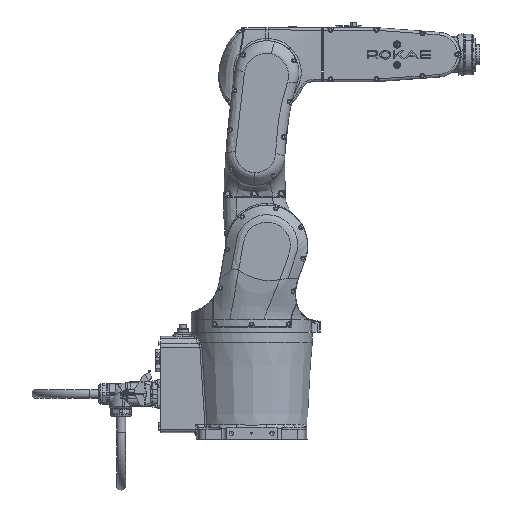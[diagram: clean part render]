
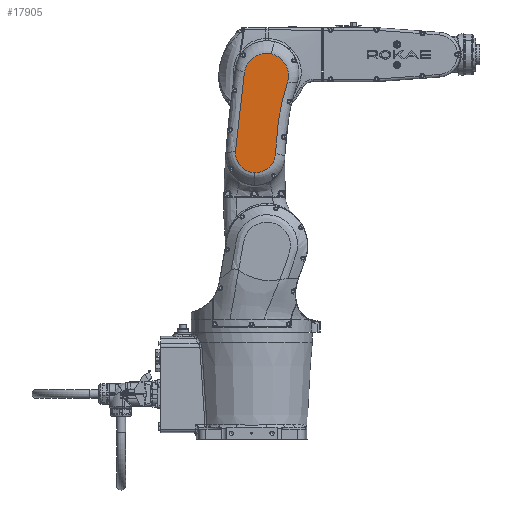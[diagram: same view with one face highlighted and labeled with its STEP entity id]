
A CAD part, front view. The second image highlights one B-rep face of the part: STEP entity #17905.
In plain terms, the highlighted planar face has unit normal (0, -1, 0).
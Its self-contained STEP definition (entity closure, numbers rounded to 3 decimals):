
#10358=B_SPLINE_CURVE_WITH_KNOTS('',3,(#132347,#132348,#132349,#132350,
#132351,#132352,#132353,#132354,#132355,#132356),.UNSPECIFIED.,.F.,.F.,
(4,2,2,2,4),(0.,0.25,0.5,0.75,1.),.UNSPECIFIED.);
#10373=B_SPLINE_CURVE_WITH_KNOTS('',3,(#136193,#136194,#136195,#136196),
 .UNSPECIFIED.,.F.,.F.,(4,4),(0.,1.),.UNSPECIFIED.);
#10382=B_SPLINE_CURVE_WITH_KNOTS('',3,(#136343,#136344,#136345,#136346,
#136347,#136348,#136349,#136350,#136351,#136352),.UNSPECIFIED.,.F.,.F.,
(4,2,2,2,4),(0.,0.25,0.5,0.75,1.),.UNSPECIFIED.);
#10397=B_SPLINE_CURVE_WITH_KNOTS('',3,(#136908,#136909,#136910,#136911),
 .UNSPECIFIED.,.F.,.F.,(4,4),(0.,1.),.UNSPECIFIED.);
#10405=B_SPLINE_CURVE_WITH_KNOTS('',3,(#137076,#137077,#137078,#137079,
#137080,#137081,#137082,#137083,#137084,#137085),.UNSPECIFIED.,.F.,.F.,
(4,2,2,2,4),(0.,0.25,0.5,0.75,1.),.UNSPECIFIED.);
#10410=B_SPLINE_CURVE_WITH_KNOTS('',3,(#137565,#137566,#137567,#137568,
#137569,#137570,#137571,#137572,#137573,#137574),.UNSPECIFIED.,.F.,.F.,
(4,2,2,2,4),(0.,0.25,0.5,0.75,1.),.UNSPECIFIED.);
#12145=PLANE('',#62605);
#14443=FACE_OUTER_BOUND('',#23861,.T.);
#17905=ADVANCED_FACE('',(#14443),#12145,.T.);
#23861=EDGE_LOOP('',(#35130,#35131,#35132,#35133,#35134,#35135));
#35130=ORIENTED_EDGE('',*,*,#53076,.T.);
#35131=ORIENTED_EDGE('',*,*,#53061,.T.);
#35132=ORIENTED_EDGE('',*,*,#53117,.T.);
#35133=ORIENTED_EDGE('',*,*,#53106,.T.);
#35134=ORIENTED_EDGE('',*,*,#53124,.T.);
#35135=ORIENTED_EDGE('',*,*,#53087,.T.);
#46019=VERTEX_POINT('',#132346);
#46020=VERTEX_POINT('',#132357);
#46034=VERTEX_POINT('',#136197);
#46043=VERTEX_POINT('',#136332);
#46062=VERTEX_POINT('',#136912);
#46063=VERTEX_POINT('',#136913);
#53061=EDGE_CURVE('',#46020,#46019,#10358,.T.);
#53076=EDGE_CURVE('',#46034,#46020,#10373,.T.);
#53087=EDGE_CURVE('',#46043,#46034,#10382,.T.);
#53106=EDGE_CURVE('',#46062,#46063,#10397,.T.);
#53117=EDGE_CURVE('',#46019,#46062,#10405,.T.);
#53124=EDGE_CURVE('',#46063,#46043,#10410,.T.);
#62605=AXIS2_PLACEMENT_3D('',#138012,#72441,#72442);
#72441=DIRECTION('',(0.,-1.,0.));
#72442=DIRECTION('',(0.,0.,-1.));
#132346=CARTESIAN_POINT('',(-24.611,-115.,143.411));
#132347=CARTESIAN_POINT('',(-61.751,-115.,185.411));
#132348=CARTESIAN_POINT('',(-62.124,-115.,180.215));
#132349=CARTESIAN_POINT('',(-61.452,-115.,174.959));
#132350=CARTESIAN_POINT('',(-58.115,-115.,165.093));
#132351=CARTESIAN_POINT('',(-55.458,-115.,160.506));
#132352=CARTESIAN_POINT('',(-48.559,-115.,152.705));
#132353=CARTESIAN_POINT('',(-44.332,-115.,149.506));
#132354=CARTESIAN_POINT('',(-34.948,-115.,144.987));
#132355=CARTESIAN_POINT('',(-29.812,-115.,143.676));
#132356=CARTESIAN_POINT('',(-24.611,-115.,143.411));
#132357=CARTESIAN_POINT('',(-61.751,-115.,185.411));
#136193=CARTESIAN_POINT('',(-44.433,-115.,340.528));
#136194=CARTESIAN_POINT('',(-52.244,-115.,289.05));
#136195=CARTESIAN_POINT('',(-58.016,-115.,237.344));
#136196=CARTESIAN_POINT('',(-61.751,-115.,185.411));
#136197=CARTESIAN_POINT('',(-44.433,-115.,340.528));
#136332=CARTESIAN_POINT('',(8.392,-115.,376.398));
#136343=CARTESIAN_POINT('',(8.392,-115.,376.398));
#136344=CARTESIAN_POINT('',(2.566,-115.,377.745));
#136345=CARTESIAN_POINT('',(-3.523,-115.,377.874));
#136346=CARTESIAN_POINT('',(-15.276,-115.,375.679));
#136347=CARTESIAN_POINT('',(-20.91,-115.,373.359));
#136348=CARTESIAN_POINT('',(-30.801,-115.,366.643));
#136349=CARTESIAN_POINT('',(-35.035,-115.,362.262));
#136350=CARTESIAN_POINT('',(-41.41,-115.,352.148));
#136351=CARTESIAN_POINT('',(-43.536,-115.,346.439));
#136352=CARTESIAN_POINT('',(-44.433,-115.,340.528));
#136908=CARTESIAN_POINT('',(16.603,-115.,181.42));
#136909=CARTESIAN_POINT('',(18.023,-115.,228.742));
#136910=CARTESIAN_POINT('',(25.952,-115.,275.808));
#136911=CARTESIAN_POINT('',(40.114,-115.,320.982));
#136912=CARTESIAN_POINT('',(16.603,-115.,181.42));
#136913=CARTESIAN_POINT('',(40.114,-115.,320.982));
#137076=CARTESIAN_POINT('',(-24.611,-115.,143.411));
#137077=CARTESIAN_POINT('',(-19.409,-115.,143.146));
#137078=CARTESIAN_POINT('',(-14.168,-115.,143.928));
#137079=CARTESIAN_POINT('',(-4.374,-115.,147.471));
#137080=CARTESIAN_POINT('',(0.157,-115.,150.223));
#137081=CARTESIAN_POINT('',(7.812,-115.,157.284));
#137082=CARTESIAN_POINT('',(10.922,-115.,161.577));
#137083=CARTESIAN_POINT('',(15.244,-115.,171.053));
#137084=CARTESIAN_POINT('',(16.447,-115.,176.215));
#137085=CARTESIAN_POINT('',(16.603,-115.,181.42));
#137565=CARTESIAN_POINT('',(40.114,-115.,320.982));
#137566=CARTESIAN_POINT('',(41.903,-115.,326.688));
#137567=CARTESIAN_POINT('',(42.498,-115.,332.75));
#137568=CARTESIAN_POINT('',(41.208,-115.,344.636));
#137569=CARTESIAN_POINT('',(39.327,-115.,350.431));
#137570=CARTESIAN_POINT('',(33.387,-115.,360.807));
#137571=CARTESIAN_POINT('',(29.343,-115.,365.364));
#137572=CARTESIAN_POINT('',(19.747,-115.,372.495));
#137573=CARTESIAN_POINT('',(14.217,-115.,375.052));
#137574=CARTESIAN_POINT('',(8.392,-115.,376.398));
#138012=CARTESIAN_POINT('',(-1.409,-115.,334.));
